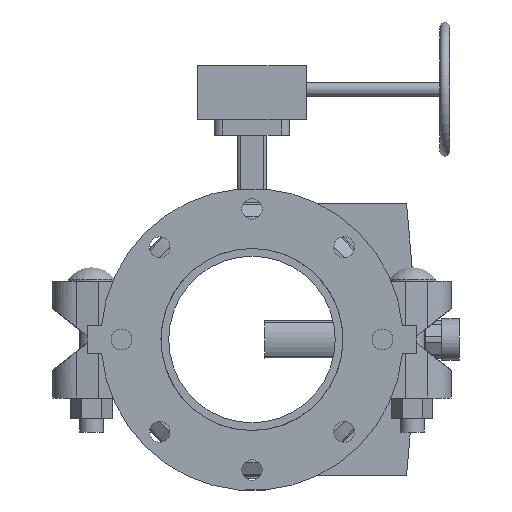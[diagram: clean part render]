
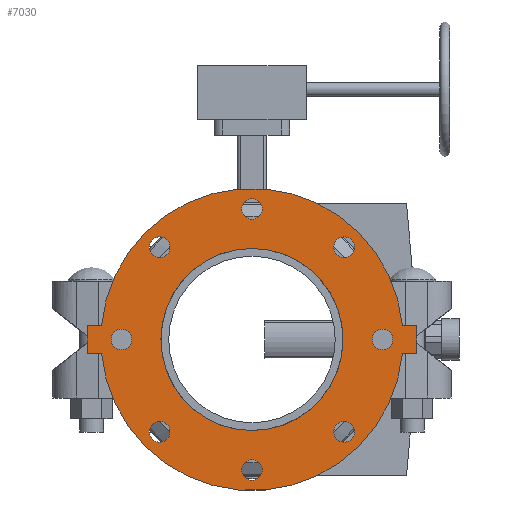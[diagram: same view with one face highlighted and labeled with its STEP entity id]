
A CAD part, front view. The second image highlights one B-rep face of the part: STEP entity #7030.
In plain terms, the highlighted planar face has unit normal (0, -1, 0) as drawn and (0, 0, -1) by its records, which use the part's own axes.
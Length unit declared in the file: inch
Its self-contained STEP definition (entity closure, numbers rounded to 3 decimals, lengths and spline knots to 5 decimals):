
#187=FACE_BOUND('',#893,.T.);
#188=FACE_BOUND('',#894,.T.);
#189=FACE_BOUND('',#895,.T.);
#190=FACE_BOUND('',#896,.T.);
#191=FACE_BOUND('',#897,.T.);
#192=FACE_BOUND('',#898,.T.);
#193=FACE_BOUND('',#899,.T.);
#194=FACE_BOUND('',#900,.T.);
#195=FACE_BOUND('',#901,.T.);
#274=PLANE('',#7635);
#509=FACE_OUTER_BOUND('',#892,.T.);
#892=EDGE_LOOP('',(#4518,#4519,#4520,#4521,#4522,#4523,#4524,#4525));
#893=EDGE_LOOP('',(#4526));
#894=EDGE_LOOP('',(#4527));
#895=EDGE_LOOP('',(#4528));
#896=EDGE_LOOP('',(#4529));
#897=EDGE_LOOP('',(#4530));
#898=EDGE_LOOP('',(#4531));
#899=EDGE_LOOP('',(#4532));
#900=EDGE_LOOP('',(#4533));
#901=EDGE_LOOP('',(#4534,#4535));
#1362=LINE('',#10674,#1882);
#1363=LINE('',#10676,#1883);
#1364=LINE('',#10678,#1884);
#1365=LINE('',#10682,#1885);
#1366=LINE('',#10684,#1886);
#1367=LINE('',#10685,#1887);
#1882=VECTOR('',#8503,0.3937);
#1883=VECTOR('',#8504,0.3937);
#1884=VECTOR('',#8505,0.3937);
#1885=VECTOR('',#8508,0.3937);
#1886=VECTOR('',#8509,0.3937);
#1887=VECTOR('',#8510,0.3937);
#2395=CIRCLE('',#7613,0.375);
#2397=CIRCLE('',#7616,0.375);
#2399=CIRCLE('',#7619,0.375);
#2401=CIRCLE('',#7622,0.375);
#2403=CIRCLE('',#7625,0.375);
#2405=CIRCLE('',#7628,0.375);
#2407=CIRCLE('',#7631,0.375);
#2409=CIRCLE('',#7634,0.375);
#2410=CIRCLE('',#7636,5.5);
#2411=CIRCLE('',#7637,5.5);
#2412=CIRCLE('',#7638,3.3125);
#2413=CIRCLE('',#7639,3.3125);
#2799=VERTEX_POINT('',#10624);
#2801=VERTEX_POINT('',#10630);
#2803=VERTEX_POINT('',#10636);
#2805=VERTEX_POINT('',#10642);
#2807=VERTEX_POINT('',#10648);
#2809=VERTEX_POINT('',#10654);
#2811=VERTEX_POINT('',#10660);
#2813=VERTEX_POINT('',#10666);
#2814=VERTEX_POINT('',#10670);
#2815=VERTEX_POINT('',#10671);
#2816=VERTEX_POINT('',#10673);
#2817=VERTEX_POINT('',#10675);
#2818=VERTEX_POINT('',#10677);
#2819=VERTEX_POINT('',#10679);
#2820=VERTEX_POINT('',#10681);
#2821=VERTEX_POINT('',#10683);
#2822=VERTEX_POINT('',#10686);
#2823=VERTEX_POINT('',#10687);
#3480=EDGE_CURVE('',#2799,#2799,#2395,.T.);
#3483=EDGE_CURVE('',#2801,#2801,#2397,.T.);
#3486=EDGE_CURVE('',#2803,#2803,#2399,.T.);
#3489=EDGE_CURVE('',#2805,#2805,#2401,.T.);
#3492=EDGE_CURVE('',#2807,#2807,#2403,.T.);
#3495=EDGE_CURVE('',#2809,#2809,#2405,.T.);
#3498=EDGE_CURVE('',#2811,#2811,#2407,.T.);
#3501=EDGE_CURVE('',#2813,#2813,#2409,.T.);
#3502=EDGE_CURVE('',#2814,#2815,#2410,.T.);
#3503=EDGE_CURVE('',#2815,#2816,#1362,.T.);
#3504=EDGE_CURVE('',#2816,#2817,#1363,.T.);
#3505=EDGE_CURVE('',#2817,#2818,#1364,.T.);
#3506=EDGE_CURVE('',#2818,#2819,#2411,.T.);
#3507=EDGE_CURVE('',#2819,#2820,#1365,.T.);
#3508=EDGE_CURVE('',#2820,#2821,#1366,.T.);
#3509=EDGE_CURVE('',#2821,#2814,#1367,.T.);
#3510=EDGE_CURVE('',#2822,#2823,#2412,.T.);
#3511=EDGE_CURVE('',#2823,#2822,#2413,.T.);
#4518=ORIENTED_EDGE('',*,*,#3502,.T.);
#4519=ORIENTED_EDGE('',*,*,#3503,.T.);
#4520=ORIENTED_EDGE('',*,*,#3504,.T.);
#4521=ORIENTED_EDGE('',*,*,#3505,.T.);
#4522=ORIENTED_EDGE('',*,*,#3506,.T.);
#4523=ORIENTED_EDGE('',*,*,#3507,.T.);
#4524=ORIENTED_EDGE('',*,*,#3508,.T.);
#4525=ORIENTED_EDGE('',*,*,#3509,.T.);
#4526=ORIENTED_EDGE('',*,*,#3480,.T.);
#4527=ORIENTED_EDGE('',*,*,#3483,.T.);
#4528=ORIENTED_EDGE('',*,*,#3486,.T.);
#4529=ORIENTED_EDGE('',*,*,#3489,.T.);
#4530=ORIENTED_EDGE('',*,*,#3492,.T.);
#4531=ORIENTED_EDGE('',*,*,#3495,.T.);
#4532=ORIENTED_EDGE('',*,*,#3498,.T.);
#4533=ORIENTED_EDGE('',*,*,#3501,.T.);
#4534=ORIENTED_EDGE('',*,*,#3510,.T.);
#4535=ORIENTED_EDGE('',*,*,#3511,.T.);
#7030=ADVANCED_FACE('',(#509,#187,#188,#189,#190,#191,#192,#193,#194,#195),
#274,.T.);
#7613=AXIS2_PLACEMENT_3D('',#10626,#8448,#8449);
#7616=AXIS2_PLACEMENT_3D('',#10632,#8455,#8456);
#7619=AXIS2_PLACEMENT_3D('',#10638,#8462,#8463);
#7622=AXIS2_PLACEMENT_3D('',#10644,#8469,#8470);
#7625=AXIS2_PLACEMENT_3D('',#10650,#8476,#8477);
#7628=AXIS2_PLACEMENT_3D('',#10656,#8483,#8484);
#7631=AXIS2_PLACEMENT_3D('',#10662,#8490,#8491);
#7634=AXIS2_PLACEMENT_3D('',#10668,#8497,#8498);
#7635=AXIS2_PLACEMENT_3D('',#10669,#8499,#8500);
#7636=AXIS2_PLACEMENT_3D('',#10672,#8501,#8502);
#7637=AXIS2_PLACEMENT_3D('',#10680,#8506,#8507);
#7638=AXIS2_PLACEMENT_3D('',#10688,#8511,#8512);
#7639=AXIS2_PLACEMENT_3D('',#10689,#8513,#8514);
#8448=DIRECTION('center_axis',(0.,0.,1.));
#8449=DIRECTION('ref_axis',(-0.707,0.707,0.));
#8455=DIRECTION('center_axis',(0.,0.,1.));
#8456=DIRECTION('ref_axis',(0.,1.,0.));
#8462=DIRECTION('center_axis',(0.,0.,1.));
#8463=DIRECTION('ref_axis',(0.707,0.707,0.));
#8469=DIRECTION('center_axis',(0.,0.,1.));
#8470=DIRECTION('ref_axis',(1.,0.,0.));
#8476=DIRECTION('center_axis',(0.,0.,1.));
#8477=DIRECTION('ref_axis',(0.707,-0.707,0.));
#8483=DIRECTION('center_axis',(0.,0.,1.));
#8484=DIRECTION('ref_axis',(0.,-1.,0.));
#8490=DIRECTION('center_axis',(0.,0.,1.));
#8491=DIRECTION('ref_axis',(-0.707,-0.707,0.));
#8497=DIRECTION('center_axis',(0.,0.,1.));
#8498=DIRECTION('ref_axis',(-1.,0.,0.));
#8499=DIRECTION('center_axis',(0.,0.,-1.));
#8500=DIRECTION('ref_axis',(-1.,0.,0.));
#8501=DIRECTION('center_axis',(0.,0.,-1.));
#8502=DIRECTION('ref_axis',(-1.,0.,0.));
#8503=DIRECTION('',(0.,1.,0.));
#8504=DIRECTION('',(1.,0.,0.));
#8505=DIRECTION('',(0.,-1.,0.));
#8506=DIRECTION('center_axis',(0.,0.,-1.));
#8507=DIRECTION('ref_axis',(-1.,0.,0.));
#8508=DIRECTION('',(0.,-1.,0.));
#8509=DIRECTION('',(-1.,0.,0.));
#8510=DIRECTION('',(0.,1.,0.));
#8511=DIRECTION('center_axis',(0.,0.,1.));
#8512=DIRECTION('ref_axis',(-1.,0.,0.));
#8513=DIRECTION('center_axis',(0.,0.,1.));
#8514=DIRECTION('ref_axis',(-1.,0.,0.));
#10624=CARTESIAN_POINT('',(-3.09359,3.09359,-0.5));
#10626=CARTESIAN_POINT('Origin',(-3.35876,3.35876,-0.5));
#10630=CARTESIAN_POINT('',(0.,4.375,-0.5));
#10632=CARTESIAN_POINT('Origin',(0.,4.75,-0.5));
#10636=CARTESIAN_POINT('',(3.09359,3.09359,-0.5));
#10638=CARTESIAN_POINT('Origin',(3.35876,3.35876,-0.5));
#10642=CARTESIAN_POINT('',(4.375,0.,-0.5));
#10644=CARTESIAN_POINT('Origin',(4.75,0.,-0.5));
#10648=CARTESIAN_POINT('',(3.09359,-3.09359,-0.5));
#10650=CARTESIAN_POINT('Origin',(3.35876,-3.35876,-0.5));
#10654=CARTESIAN_POINT('',(0.,-4.375,-0.5));
#10656=CARTESIAN_POINT('Origin',(0.,-4.75,-0.5));
#10660=CARTESIAN_POINT('',(-3.09359,-3.09359,-0.5));
#10662=CARTESIAN_POINT('Origin',(-3.35876,-3.35876,-0.5));
#10666=CARTESIAN_POINT('',(-4.375,0.,-0.5));
#10668=CARTESIAN_POINT('Origin',(-4.75,0.,-0.5));
#10669=CARTESIAN_POINT('Origin',(0.,0.,-0.5));
#10670=CARTESIAN_POINT('',(-0.5,-5.47723,-0.5));
#10671=CARTESIAN_POINT('',(-0.5,5.47723,-0.5));
#10672=CARTESIAN_POINT('Origin',(0.,0.,-0.5));
#10673=CARTESIAN_POINT('',(-0.5,6.,-0.5));
#10674=CARTESIAN_POINT('',(-0.5,-6.,-0.5));
#10675=CARTESIAN_POINT('',(0.5,6.,-0.5));
#10676=CARTESIAN_POINT('',(-0.5,6.,-0.5));
#10677=CARTESIAN_POINT('',(0.5,5.47723,-0.5));
#10678=CARTESIAN_POINT('',(0.5,6.,-0.5));
#10679=CARTESIAN_POINT('',(0.5,-5.47723,-0.5));
#10680=CARTESIAN_POINT('Origin',(0.,0.,-0.5));
#10681=CARTESIAN_POINT('',(0.5,-6.,-0.5));
#10682=CARTESIAN_POINT('',(0.5,6.,-0.5));
#10683=CARTESIAN_POINT('',(-0.5,-6.,-0.5));
#10684=CARTESIAN_POINT('',(0.5,-6.,-0.5));
#10685=CARTESIAN_POINT('',(-0.5,-6.,-0.5));
#10686=CARTESIAN_POINT('',(0.5,3.27455,-0.5));
#10687=CARTESIAN_POINT('',(3.3125,0.,-0.5));
#10688=CARTESIAN_POINT('Origin',(0.,0.,-0.5));
#10689=CARTESIAN_POINT('Origin',(0.,0.,-0.5));
